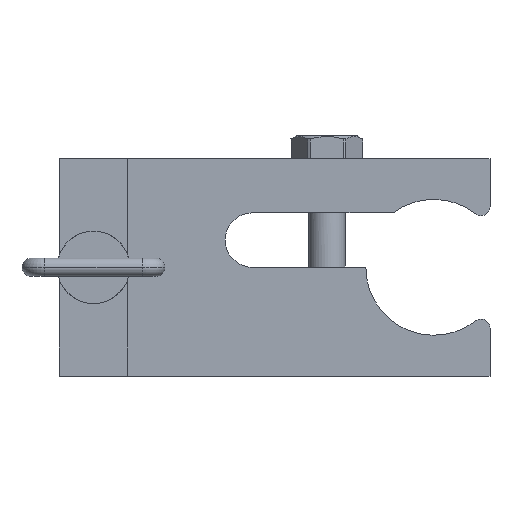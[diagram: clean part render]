
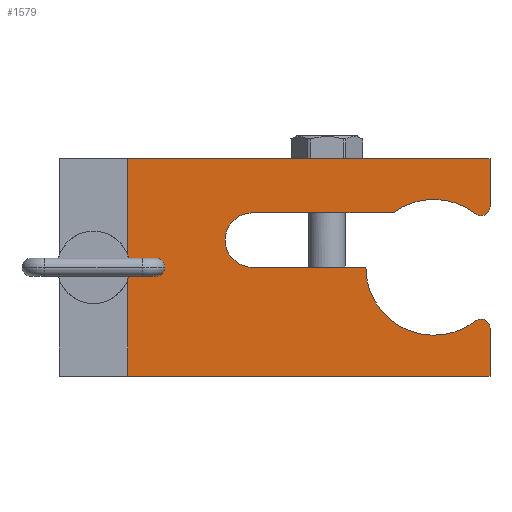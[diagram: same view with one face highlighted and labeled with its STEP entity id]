
A CAD part, left-side view. The second image highlights one B-rep face of the part: STEP entity #1579.
In plain terms, the highlighted planar face has unit normal (-1, 0, 0) as drawn and (0, 0, 1) by its records, which use the part's own axes.
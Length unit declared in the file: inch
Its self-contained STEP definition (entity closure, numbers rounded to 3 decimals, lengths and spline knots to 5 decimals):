
#985=CARTESIAN_POINT('',(-0.00004,1.25,0.5));
#986=VERTEX_POINT('',#985);
#993=CARTESIAN_POINT('',(-0.00004,0.4685,0.5));
#994=VERTEX_POINT('',#993);
#995=CARTESIAN_POINT('',(-0.00004,1.25,0.5));
#996=DIRECTION('',(0.0,-1.0,0.0));
#997=VECTOR('',#996,0.7815);
#998=LINE('',#995,#997);
#999=EDGE_CURVE('',#986,#994,#998,.T.);
#1028=CARTESIAN_POINT('',(-0.75,-0.388,0.5));
#1029=VERTEX_POINT('',#1028);
#1036=CARTESIAN_POINT('',(-0.75,2.112,0.5));
#1037=VERTEX_POINT('',#1036);
#1038=CARTESIAN_POINT('',(-0.75,-0.388,0.5));
#1039=DIRECTION('',(0.0,1.0,0.0));
#1040=VECTOR('',#1039,2.5);
#1041=LINE('',#1038,#1040);
#1042=EDGE_CURVE('',#1029,#1037,#1041,.T.);
#1297=CARTESIAN_POINT('',(-0.3696,-0.2879,0.5));
#1298=VERTEX_POINT('',#1297);
#1305=CARTESIAN_POINT('',(-0.41851,-0.388,0.5));
#1306=VERTEX_POINT('',#1305);
#1307=CARTESIAN_POINT('',(-0.41851,-0.326,0.5));
#1308=DIRECTION('',(0.0,0.0,-1.0));
#1309=DIRECTION('',(0.0,1.0,0.0));
#1310=AXIS2_PLACEMENT_3D('',#1307,#1308,#1309);
#1311=CIRCLE('',#1310,0.062);
#1312=EDGE_CURVE('',#1298,#1306,#1311,.T.);
#1330=CARTESIAN_POINT('',(0.0,0.0,0.5));
#1331=DIRECTION('',(0.0,0.0,1.0));
#1332=DIRECTION('',(0.,1.,0.0));
#1333=AXIS2_PLACEMENT_3D('',#1330,#1331,#1332);
#1334=CIRCLE('',#1333,0.4685);
#1335=EDGE_CURVE('',#994,#1298,#1334,.T.);
#1347=CARTESIAN_POINT('',(0.37596,1.25,0.5));
#1348=VERTEX_POINT('',#1347);
#1355=CARTESIAN_POINT('',(0.18796,1.25,0.5));
#1356=DIRECTION('',(0.0,0.0,1.0));
#1357=DIRECTION('',(1.0,0.0,0.0));
#1358=AXIS2_PLACEMENT_3D('',#1355,#1356,#1357);
#1359=CIRCLE('',#1358,0.188);
#1360=EDGE_CURVE('',#1348,#986,#1359,.T.);
#1372=CARTESIAN_POINT('',(0.37596,0.27955,0.5));
#1373=VERTEX_POINT('',#1372);
#1380=CARTESIAN_POINT('',(0.37596,0.27955,0.5));
#1381=DIRECTION('',(0.0,1.0,0.0));
#1382=VECTOR('',#1381,0.97045);
#1383=LINE('',#1380,#1382);
#1384=EDGE_CURVE('',#1373,#1348,#1383,.T.);
#1399=CARTESIAN_POINT('',(0.3696,-0.2879,0.5));
#1400=VERTEX_POINT('',#1399);
#1407=CARTESIAN_POINT('',(0.0,0.0,0.5));
#1408=DIRECTION('',(0.0,0.0,1.0));
#1409=DIRECTION('',(0.789,-0.615,0.0));
#1410=AXIS2_PLACEMENT_3D('',#1407,#1408,#1409);
#1411=CIRCLE('',#1410,0.4685);
#1412=EDGE_CURVE('',#1400,#1373,#1411,.T.);
#1448=CARTESIAN_POINT('',(0.75,-0.388,0.5));
#1449=VERTEX_POINT('',#1448);
#1456=CARTESIAN_POINT('',(0.41851,-0.388,0.5));
#1457=VERTEX_POINT('',#1456);
#1458=CARTESIAN_POINT('',(0.75,-0.388,0.5));
#1459=DIRECTION('',(-1.0,0.0,0.0));
#1460=VECTOR('',#1459,0.33149);
#1461=LINE('',#1458,#1460);
#1462=EDGE_CURVE('',#1449,#1457,#1461,.T.);
#1480=CARTESIAN_POINT('',(0.41851,-0.326,0.5));
#1481=DIRECTION('',(0.0,0.0,-1.0));
#1482=DIRECTION('',(0.789,-0.615,0.0));
#1483=AXIS2_PLACEMENT_3D('',#1480,#1481,#1482);
#1484=CIRCLE('',#1483,0.062);
#1485=EDGE_CURVE('',#1457,#1400,#1484,.T.);
#1498=CARTESIAN_POINT('',(-0.41851,-0.388,0.5));
#1499=DIRECTION('',(-1.0,0.0,0.0));
#1500=VECTOR('',#1499,0.33149);
#1501=LINE('',#1498,#1500);
#1502=EDGE_CURVE('',#1306,#1029,#1501,.T.);
#1513=CARTESIAN_POINT('',(0.75,2.112,0.5));
#1514=VERTEX_POINT('',#1513);
#1515=CARTESIAN_POINT('',(-0.75,2.112,0.5));
#1516=DIRECTION('',(1.0,0.0,0.0));
#1517=VECTOR('',#1516,1.5);
#1518=LINE('',#1515,#1517);
#1519=EDGE_CURVE('',#1037,#1514,#1518,.T.);
#1546=CARTESIAN_POINT('',(0.75,2.112,0.5));
#1547=DIRECTION('',(0.0,-1.0,0.0));
#1548=VECTOR('',#1547,2.5);
#1549=LINE('',#1546,#1548);
#1550=EDGE_CURVE('',#1514,#1449,#1549,.T.);
#1560=CARTESIAN_POINT('',(0.03492,0.83082,0.5));
#1561=DIRECTION('',(0.0,0.0,1.0));
#1562=DIRECTION('',(1.0,0.0,0.0));
#1563=AXIS2_PLACEMENT_3D('',#1560,#1561,#1562);
#1564=PLANE('',#1563);
#1565=ORIENTED_EDGE('',*,*,#1462,.F.);
#1566=ORIENTED_EDGE('',*,*,#1550,.F.);
#1567=ORIENTED_EDGE('',*,*,#1519,.F.);
#1568=ORIENTED_EDGE('',*,*,#1042,.F.);
#1569=ORIENTED_EDGE('',*,*,#1502,.F.);
#1570=ORIENTED_EDGE('',*,*,#1312,.F.);
#1571=ORIENTED_EDGE('',*,*,#1335,.F.);
#1572=ORIENTED_EDGE('',*,*,#999,.F.);
#1573=ORIENTED_EDGE('',*,*,#1360,.F.);
#1574=ORIENTED_EDGE('',*,*,#1384,.F.);
#1575=ORIENTED_EDGE('',*,*,#1412,.F.);
#1576=ORIENTED_EDGE('',*,*,#1485,.F.);
#1577=EDGE_LOOP('',(#1565,#1566,#1567,#1568,#1569,#1570,#1571,#1572,#1573,#1574,#1575,#1576));
#1578=FACE_OUTER_BOUND('',#1577,.T.);
#1579=ADVANCED_FACE('',(#1578),#1564,.T.);
